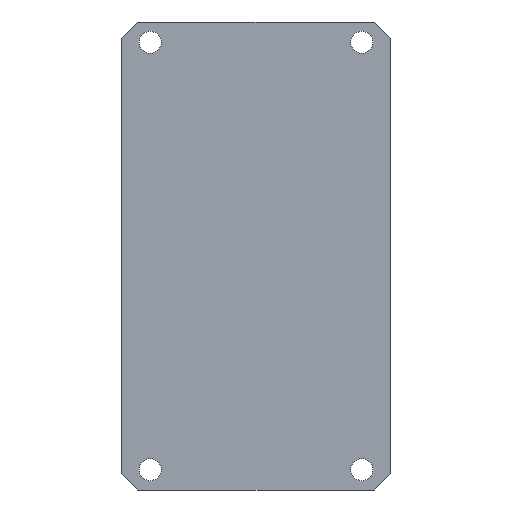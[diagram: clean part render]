
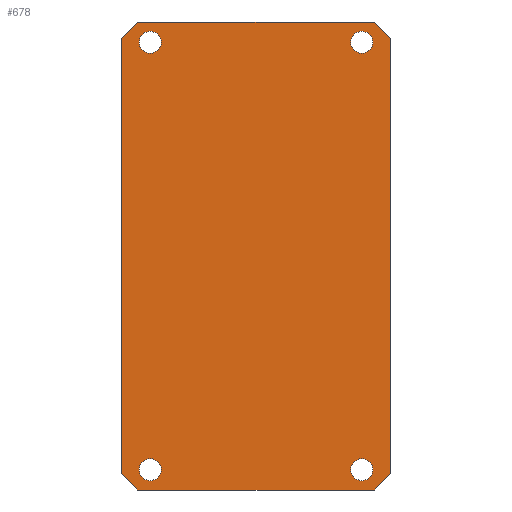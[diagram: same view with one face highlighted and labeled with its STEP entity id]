
A CAD part, front view. The second image highlights one B-rep face of the part: STEP entity #678.
In plain terms, the highlighted planar face has unit normal (0, -1, 0).
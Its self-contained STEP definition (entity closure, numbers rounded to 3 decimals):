
#40=LINE('',#1100,#92);
#47=LINE('',#1115,#99);
#50=LINE('',#1120,#102);
#51=LINE('',#1123,#103);
#58=LINE('',#1135,#110);
#59=LINE('',#1137,#111);
#60=LINE('',#1140,#112);
#61=LINE('',#1141,#113);
#92=VECTOR('',#906,10.);
#99=VECTOR('',#917,10.);
#102=VECTOR('',#922,10.);
#103=VECTOR('',#925,10.);
#110=VECTOR('',#936,10.);
#111=VECTOR('',#939,10.);
#112=VECTOR('',#942,10.);
#113=VECTOR('',#943,10.);
#140=PLANE('',#759);
#163=FACE_BOUND('',#267,.T.);
#164=FACE_BOUND('',#268,.T.);
#165=FACE_BOUND('',#269,.T.);
#166=FACE_BOUND('',#270,.T.);
#207=FACE_OUTER_BOUND('',#266,.T.);
#266=EDGE_LOOP('',(#573,#574,#575,#576,#577,#578,#579,#580));
#267=EDGE_LOOP('',(#581));
#268=EDGE_LOOP('',(#582));
#269=EDGE_LOOP('',(#583));
#270=EDGE_LOOP('',(#584));
#308=CIRCLE('',#741,1.35);
#310=CIRCLE('',#744,1.35);
#312=CIRCLE('',#747,1.35);
#314=CIRCLE('',#750,1.35);
#354=VERTEX_POINT('',#1075);
#356=VERTEX_POINT('',#1080);
#358=VERTEX_POINT('',#1085);
#360=VERTEX_POINT('',#1090);
#362=VERTEX_POINT('',#1094);
#364=VERTEX_POINT('',#1098);
#369=VERTEX_POINT('',#1112);
#370=VERTEX_POINT('',#1114);
#371=VERTEX_POINT('',#1118);
#372=VERTEX_POINT('',#1122);
#375=VERTEX_POINT('',#1133);
#376=VERTEX_POINT('',#1139);
#423=EDGE_CURVE('',#354,#354,#308,.T.);
#425=EDGE_CURVE('',#356,#356,#310,.T.);
#427=EDGE_CURVE('',#358,#358,#312,.T.);
#429=EDGE_CURVE('',#360,#360,#314,.T.);
#433=EDGE_CURVE('',#364,#362,#40,.T.);
#440=EDGE_CURVE('',#369,#370,#47,.T.);
#443=EDGE_CURVE('',#370,#371,#50,.T.);
#444=EDGE_CURVE('',#371,#372,#51,.T.);
#451=EDGE_CURVE('',#372,#375,#58,.T.);
#452=EDGE_CURVE('',#375,#364,#59,.T.);
#453=EDGE_CURVE('',#362,#376,#60,.T.);
#454=EDGE_CURVE('',#376,#369,#61,.T.);
#573=ORIENTED_EDGE('',*,*,#453,.F.);
#574=ORIENTED_EDGE('',*,*,#433,.F.);
#575=ORIENTED_EDGE('',*,*,#452,.F.);
#576=ORIENTED_EDGE('',*,*,#451,.F.);
#577=ORIENTED_EDGE('',*,*,#444,.F.);
#578=ORIENTED_EDGE('',*,*,#443,.F.);
#579=ORIENTED_EDGE('',*,*,#440,.F.);
#580=ORIENTED_EDGE('',*,*,#454,.F.);
#581=ORIENTED_EDGE('',*,*,#429,.T.);
#582=ORIENTED_EDGE('',*,*,#427,.T.);
#583=ORIENTED_EDGE('',*,*,#423,.T.);
#584=ORIENTED_EDGE('',*,*,#425,.T.);
#678=ADVANCED_FACE('',(#207,#163,#164,#165,#166),#140,.F.);
#741=AXIS2_PLACEMENT_3D('',#1076,#881,#882);
#744=AXIS2_PLACEMENT_3D('',#1081,#887,#888);
#747=AXIS2_PLACEMENT_3D('',#1086,#893,#894);
#750=AXIS2_PLACEMENT_3D('',#1091,#899,#900);
#759=AXIS2_PLACEMENT_3D('',#1138,#940,#941);
#881=DIRECTION('center_axis',(0.,1.,0.));
#882=DIRECTION('ref_axis',(1.,0.,0.));
#887=DIRECTION('center_axis',(0.,1.,0.));
#888=DIRECTION('ref_axis',(1.,0.,0.));
#893=DIRECTION('center_axis',(0.,1.,0.));
#894=DIRECTION('ref_axis',(1.,0.,0.));
#899=DIRECTION('center_axis',(0.,1.,0.));
#900=DIRECTION('ref_axis',(1.,0.,0.));
#906=DIRECTION('',(-1.,0.,0.));
#917=DIRECTION('',(0.707,0.,0.707));
#922=DIRECTION('',(1.,0.,0.));
#925=DIRECTION('',(0.707,0.,-0.707));
#936=DIRECTION('',(0.,0.,-1.));
#939=DIRECTION('',(-0.707,0.,-0.707));
#940=DIRECTION('center_axis',(0.,1.,0.));
#941=DIRECTION('ref_axis',(0.,0.,1.));
#942=DIRECTION('',(-0.707,0.,0.707));
#943=DIRECTION('',(0.,0.,1.));
#1075=CARTESIAN_POINT('',(-4.85,0.,-55.));
#1076=CARTESIAN_POINT('Origin',(-3.5,0.,-55.));
#1080=CARTESIAN_POINT('',(-30.85,0.,-55.));
#1081=CARTESIAN_POINT('Origin',(-29.5,0.,-55.));
#1085=CARTESIAN_POINT('',(-30.85,0.,-2.5));
#1086=CARTESIAN_POINT('Origin',(-29.5,0.,-2.5));
#1090=CARTESIAN_POINT('',(-4.85,0.,-2.5));
#1091=CARTESIAN_POINT('Origin',(-3.5,0.,-2.5));
#1094=CARTESIAN_POINT('',(-31.,0.,-57.5));
#1098=CARTESIAN_POINT('',(-2.,0.,-57.5));
#1100=CARTESIAN_POINT('',(0.,0.,-57.5));
#1112=CARTESIAN_POINT('',(-33.,0.,-2.));
#1114=CARTESIAN_POINT('',(-31.,0.,0.));
#1115=CARTESIAN_POINT('',(-35.688,0.,-4.687));
#1118=CARTESIAN_POINT('',(-2.,0.,0.));
#1120=CARTESIAN_POINT('',(-33.,0.,0.));
#1122=CARTESIAN_POINT('',(0.,0.,-2.));
#1123=CARTESIAN_POINT('',(2.687,0.,-4.687));
#1133=CARTESIAN_POINT('',(0.,0.,-55.5));
#1135=CARTESIAN_POINT('',(0.,0.,-5.));
#1137=CARTESIAN_POINT('',(1.438,0.,-54.063));
#1138=CARTESIAN_POINT('Origin',(-16.5,0.,-31.25));
#1139=CARTESIAN_POINT('',(-33.,0.,-55.5));
#1140=CARTESIAN_POINT('',(-34.438,0.,-54.063));
#1141=CARTESIAN_POINT('',(-33.,0.,-57.5));
